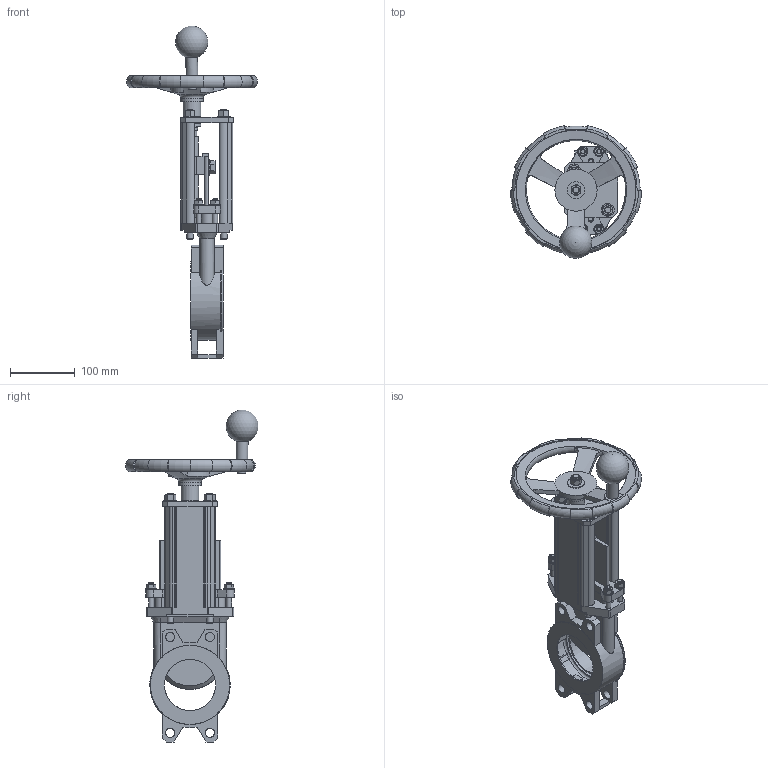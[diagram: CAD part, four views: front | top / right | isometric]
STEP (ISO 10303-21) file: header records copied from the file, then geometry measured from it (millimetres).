
FILE_DESCRIPTION(('STEP AP203'),'1');
FILE_NAME('G:/KONSTRUK/3-d block för CD/MV VALVE/HAND WHEEL/MV80-PN10-HW.stp',' ',(' '),(' '),'XStep 1.0',' ',' ');
FILE_SCHEMA(('CONFIG_CONTROL_DESIGN'));
Length unit declared in the file: metre
Bounding box: 201.92 x 204.89 x 511.99 mm (x, y, z)
Volume: 1255839.7 mm3; surface area: 424568.2 mm2
Topology: 1 solids, 4 shells, 744 faces, 1826 edges, 1166 vertices
Faces by surface type: plane 382, cylinder 174, cone 155, torus 26, bspline 6, sphere 1
Full cylindrical faces by diameter (mm): 6.75 x4, 8 x8, 8.8 x4, 9 x4, 10 x15, 10.25 x1, 10.791 x5, 11 x4, 12 x3, 12.793 x1, 14 x8, 15 x4, 15.984 x4, 17 x1, 18 x2, 19 x1, 19.5 x2, 19.715 x4, 20 x2, 24 x1, 26.35 x1, 27 x2, 27.5 x2, 35 x1, 79 x2, 84 x1, 90 x1, 94 x1, 100 x1, 112 x1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
Entity records: 24080 total; most frequent: CARTESIAN_POINT 7469, DIRECTION 3398, ORIENTED_EDGE 3270, EDGE_CURVE 1635, AXIS2_PLACEMENT_3D 1355, VERTEX_POINT 1104, EDGE_LOOP 995, FACE_OUTER_BOUND 843
